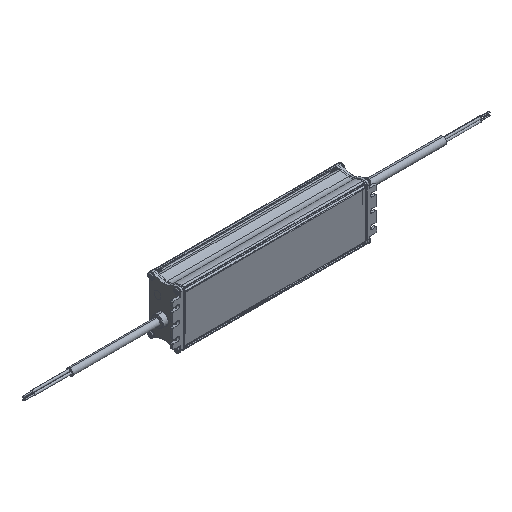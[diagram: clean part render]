
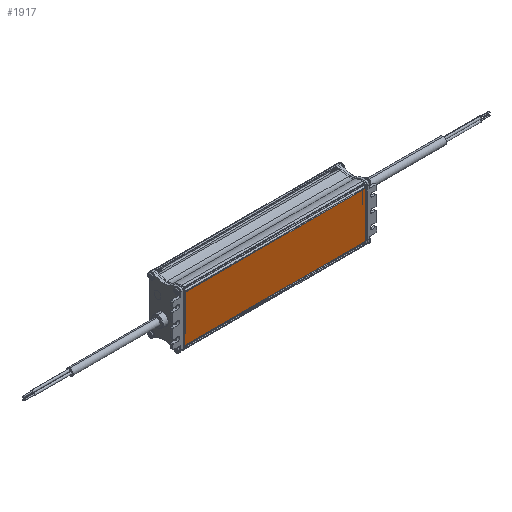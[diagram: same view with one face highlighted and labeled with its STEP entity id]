
A CAD part, isometric view. The second image highlights one B-rep face of the part: STEP entity #1917.
In plain terms, the highlighted planar face has unit normal (0, -1, 0).
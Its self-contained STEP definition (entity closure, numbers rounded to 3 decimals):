
#75=DIRECTION('',(0.,0.,-1.));
#76=VECTOR('',#75,49.366);
#77=CARTESIAN_POINT('',(-97.5,-17.,24.683));
#78=LINE('',#77,#76);
#446=DIRECTION('',(0.,0.,-1.));
#447=VECTOR('',#446,49.366);
#448=CARTESIAN_POINT('',(97.5,-17.,24.683));
#449=LINE('',#448,#447);
#714=DIRECTION('',(-1.,0.,0.));
#715=VECTOR('',#714,195.);
#716=CARTESIAN_POINT('',(97.5,-17.,24.683));
#717=LINE('',#716,#715);
#718=DIRECTION('',(1.,0.,0.));
#719=VECTOR('',#718,195.);
#720=CARTESIAN_POINT('',(-97.5,-17.,-24.683));
#721=LINE('',#720,#719);
#922=CARTESIAN_POINT('',(-97.5,-17.,24.683));
#924=VERTEX_POINT('',#922);
#928=CARTESIAN_POINT('',(97.5,-17.,24.683));
#929=VERTEX_POINT('',#928);
#930=CARTESIAN_POINT('',(97.5,-17.,-24.683));
#932=VERTEX_POINT('',#930);
#936=CARTESIAN_POINT('',(-97.5,-17.,-24.683));
#937=VERTEX_POINT('',#936);
#1906=CARTESIAN_POINT('',(-97.5,-17.,30.));
#1907=DIRECTION('',(0.,-1.,0.));
#1908=DIRECTION('',(0.,0.,-1.));
#1909=AXIS2_PLACEMENT_3D('',#1906,#1907,#1908);
#1910=PLANE('',#1909);
#1911=ORIENTED_EDGE('',*,*,#1459,.F.);
#1912=ORIENTED_EDGE('',*,*,#1242,.T.);
#1913=ORIENTED_EDGE('',*,*,#1901,.F.);
#1914=ORIENTED_EDGE('',*,*,#953,.F.);
#1915=EDGE_LOOP('',(#1911,#1912,#1913,#1914));
#1916=FACE_OUTER_BOUND('',#1915,.F.);
#1917=ADVANCED_FACE('',(#1916),#1910,.T.);
#953=EDGE_CURVE('',#924,#937,#78,.T.);
#1242=EDGE_CURVE('',#929,#932,#449,.T.);
#1459=EDGE_CURVE('',#929,#924,#717,.T.);
#1901=EDGE_CURVE('',#937,#932,#721,.T.);
